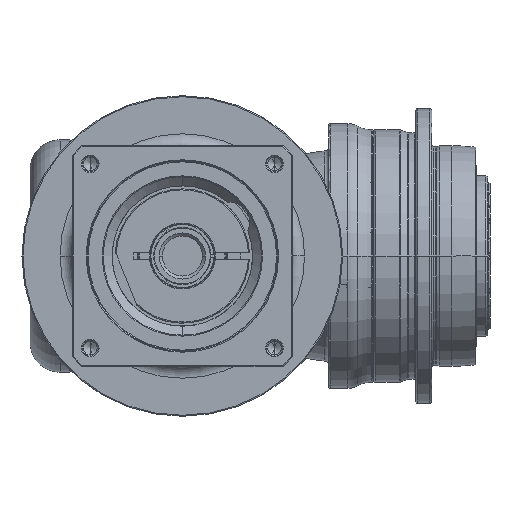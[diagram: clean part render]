
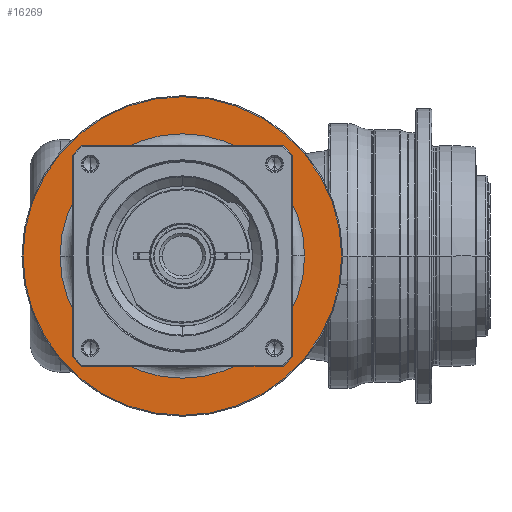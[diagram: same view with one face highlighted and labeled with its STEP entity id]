
A CAD part, front view. The second image highlights one B-rep face of the part: STEP entity #16269.
In plain terms, the highlighted planar face has unit normal (0, -1, 0) as drawn and (1, 0, 0) by its records, which use the part's own axes.
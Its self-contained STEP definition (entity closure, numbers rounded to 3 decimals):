
#15748=CARTESIAN_POINT('',(-9.,0.,0.));
#15749=DIRECTION('',(-1.,0.,0.));
#15750=DIRECTION('',(0.,-1.,0.));
#15751=AXIS2_PLACEMENT_3D('',#15748,#15749,#15750);
#15753=CARTESIAN_POINT('',(-9.,0.,0.));
#15754=DIRECTION('',(-1.,0.,0.));
#15755=DIRECTION('',(0.,1.,0.));
#15756=AXIS2_PLACEMENT_3D('',#15753,#15754,#15755);
#15758=CARTESIAN_POINT('',(-9.,0.,0.));
#15759=DIRECTION('',(-1.,0.,0.));
#15760=DIRECTION('',(0.,-1.,0.));
#15761=AXIS2_PLACEMENT_3D('',#15758,#15759,#15760);
#15763=CARTESIAN_POINT('',(-9.,0.,0.));
#15764=DIRECTION('',(-1.,0.,0.));
#15765=DIRECTION('',(0.,1.,0.));
#15766=AXIS2_PLACEMENT_3D('',#15763,#15764,#15765);
#15832=CARTESIAN_POINT('',(-9.,-79.5,0.));
#15833=CARTESIAN_POINT('',(-9.,79.5,0.));
#15834=VERTEX_POINT('',#15832);
#15835=VERTEX_POINT('',#15833);
#15856=CARTESIAN_POINT('',(-9.,-61.,0.));
#15857=CARTESIAN_POINT('',(-9.,61.,0.));
#15858=VERTEX_POINT('',#15856);
#15859=VERTEX_POINT('',#15857);
#16254=CARTESIAN_POINT('',(-9.,0.,0.));
#16255=DIRECTION('',(1.,0.,0.));
#16256=DIRECTION('',(0.,-1.,0.));
#16257=AXIS2_PLACEMENT_3D('',#16254,#16255,#16256);
#16258=PLANE('',#16257);
#16259=ORIENTED_EDGE('',*,*,#16195,.T.);
#16260=ORIENTED_EDGE('',*,*,#16210,.T.);
#16261=EDGE_LOOP('',(#16259,#16260));
#16262=FACE_OUTER_BOUND('',#16261,.F.);
#16264=ORIENTED_EDGE('',*,*,#16263,.F.);
#16266=ORIENTED_EDGE('',*,*,#16265,.F.);
#16267=EDGE_LOOP('',(#16264,#16266));
#16268=FACE_BOUND('',#16267,.F.);
#16269=ADVANCED_FACE('',(#16262,#16268),#16258,.T.);
#15752=CIRCLE('',#15751,61.);
#15757=CIRCLE('',#15756,61.);
#15762=CIRCLE('',#15761,79.5);
#15767=CIRCLE('',#15766,79.5);
#16195=EDGE_CURVE('',#15834,#15835,#15762,.T.);
#16210=EDGE_CURVE('',#15835,#15834,#15767,.T.);
#16263=EDGE_CURVE('',#15858,#15859,#15752,.T.);
#16265=EDGE_CURVE('',#15859,#15858,#15757,.T.);
